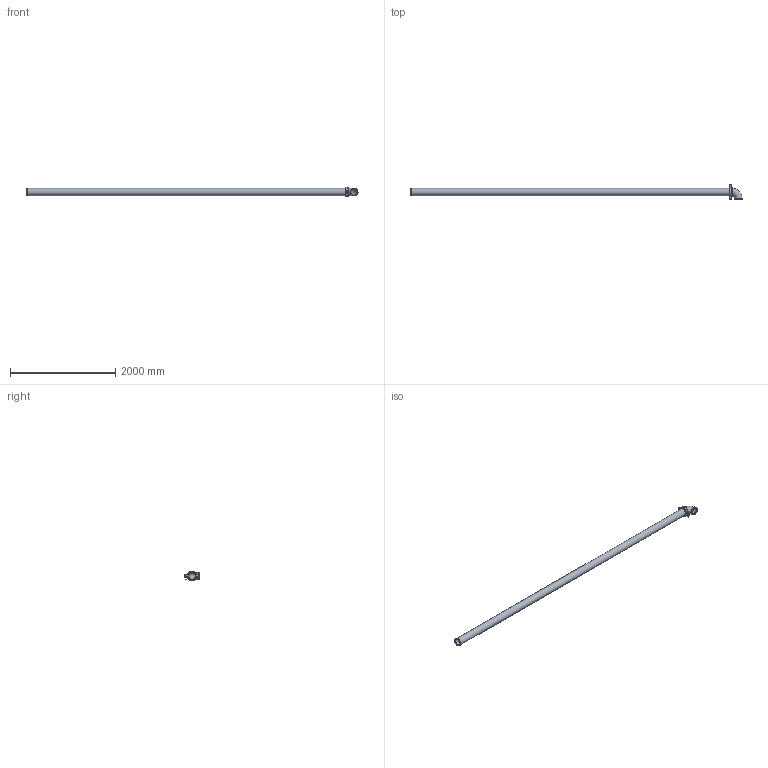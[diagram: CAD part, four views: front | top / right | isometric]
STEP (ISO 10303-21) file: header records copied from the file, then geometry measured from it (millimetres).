
FILE_DESCRIPTION(/* description */ ('VIC LONG RUN FITTING No R20 (OGS)','CAx-IF Rec.Pracs.---Representation and Presentation of Product Manufacturing Information (PMI)---4.0---2014-10-13'),/* implementation_level */ '2;1');
FILE_NAME(/* name */ 'C:\Users\Vjadhav\AppData\Roaming\Autodesk\ApplicationPlugins\Back Up\Victaulic_IPS_Long Run Fittings_No R20 (OGS)\Victaulic_IPS_Long Run Fittings_No R20 (OGS)_5 (125).stp',/* time_stamp */ '2020-10-06T19:45:55+05:00',/* author */ ('Vjadhav'),/* organization */ ('Victaulic'),/* preprocessor_version */ 'ST-DEVELOPER v17.2',/* originating_system */ 'Autodesk Inventor 2019',/* authorisation */ '');
FILE_SCHEMA (('AP242_MANAGED_MODEL_BASED_3D_ENGINEERING_MIM_LF { 1 0 10303 442 1 1 4 }'));
Length unit declared in the file: inch
Products named in the file (4): R20-05.0; 010-05.0; 177N-05.0; Pipe_R10-05.0
Assembly tree (3 placements, depth 2):
  R20-05.0
    010-05.0
    177N-05.0
    Pipe_R10-05.0
Bounding box: 6316 x 284.03 x 185.67 mm (x, y, z)
Volume: 18334046.9 mm3; surface area: 5485429.5 mm2
Topology: 3 solids, 3 shells, 117 faces, 305 edges, 206 vertices
Faces by surface type: plane 68, cylinder 37, torus 6, cone 4, sphere 2
Full cylindrical faces by diameter (mm): 17.78 x2, 30.48 x2, 128.194 x3, 128.6 x1, 137.033 x4, 141.3 x7
Entity records: 4268 total; most frequent: CARTESIAN_POINT 971, DIRECTION 661, ORIENTED_EDGE 618, EDGE_CURVE 309, AXIS2_PLACEMENT_3D 248, VERTEX_POINT 206, LINE 165, VECTOR 165
